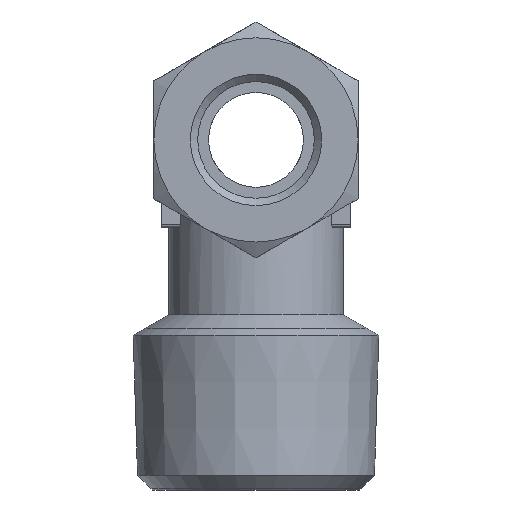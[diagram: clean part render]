
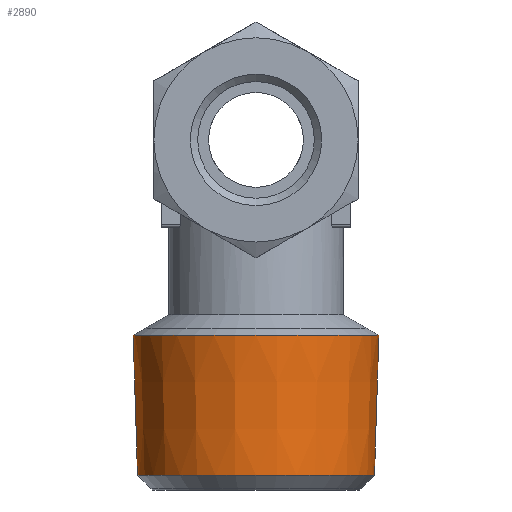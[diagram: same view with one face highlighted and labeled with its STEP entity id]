
A CAD part, left-side view. The second image highlights one B-rep face of the part: STEP entity #2890.
In plain terms, the highlighted conical face has half-angle 1.79 degrees and reference radius 8.422 mm.
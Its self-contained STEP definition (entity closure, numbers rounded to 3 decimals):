
#2890=ADVANCED_FACE('', (#2900,#2910), #2920, .T.);
#10580=AXIS2_PLACEMENT_3D('Ax2Pl3d', #10590, #10600, #10610);
#10700=AXIS2_PLACEMENT_3D('Ax2Pl3d', #10710, #10720, #10730);
#10780=AXIS2_PLACEMENT_3D('Ax2Pl3d', #10790, #10800, #10810);
#10590=CARTESIAN_POINT('HicPkt', (32.404,18.081,
20.951));
#56310=CARTESIAN_POINT('', (32.404,9.659,20.951));
#10710=CARTESIAN_POINT('HicPkt', (32.404,18.081,
11.349));
#56330=CARTESIAN_POINT('', (32.404,9.959,11.349));
#10790=CARTESIAN_POINT('HicPkt', (32.404,18.081,
20.951));
#57670=CIRCLE('Circle', #10580, 8.422);
#57690=CIRCLE('Circle', #10700, 8.122);
#2920=CONICAL_SURFACE('Kegel', #10780, 8.422, 
0.031);
#10600=DIRECTION('Axis', (0.,0.,1.));
#10610=DIRECTION('RefDirection', (1.,0.,-0.));
#10720=DIRECTION('Axis', (0.,0.,-1.));
#10730=DIRECTION('RefDirection', (-1.,-0.,0.));
#10800=DIRECTION('Axis', (0.,0.,1.));
#10810=DIRECTION('RefDirection', (1.,0.,-0.));
#68910=EDGE_CURVE('', #68920, #68920, #57670, .T.);
#68950=EDGE_CURVE('', #68960, #68960, #57690, .T.);
#74630=EDGE_LOOP('Edge_loop', (#74640));
#74650=EDGE_LOOP('Edge_loop', (#74660));
#2910=FACE_BOUND('', #74650, .T.);
#2900=FACE_OUTER_BOUND('Face_outer_bound', #74630, .T.);
#74640=ORIENTED_EDGE('', *, *, #68910, .F.);
#74660=ORIENTED_EDGE('', *, *, #68950, .F.);
#68920=VERTEX_POINT('', #56310);
#68960=VERTEX_POINT('', #56330);
